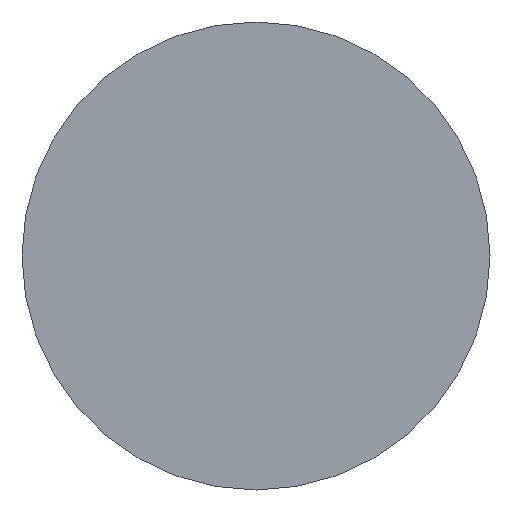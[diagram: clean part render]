
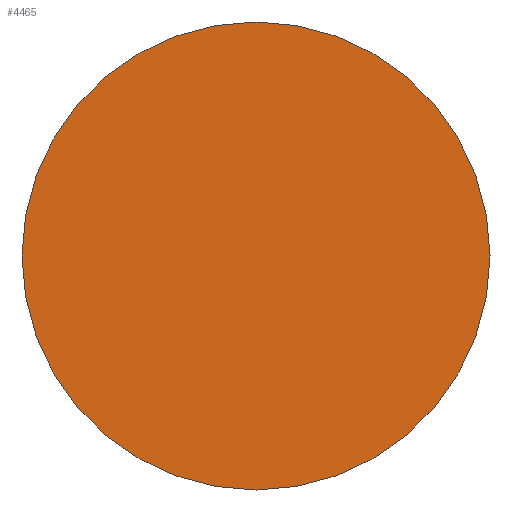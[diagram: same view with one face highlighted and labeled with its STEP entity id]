
A CAD part, front view. The second image highlights one B-rep face of the part: STEP entity #4465.
In plain terms, the highlighted planar face has unit normal (0, -1, 0).
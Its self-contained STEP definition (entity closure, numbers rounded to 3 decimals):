
#518 = DIRECTION ( 'NONE',  ( -1., 0., 0. ) ) ;
#1342 = FACE_OUTER_BOUND ( 'NONE', #4981, .T. ) ;
#3383 = CIRCLE ( 'NONE', #12966, 20. ) ;
#3395 = DIRECTION ( 'NONE',  ( -1., 0., 0. ) ) ;
#4465 = ADVANCED_FACE ( 'NONE', ( #1342 ), #7825, .F. ) ;
#4981 = EDGE_LOOP ( 'NONE', ( #6237 ) ) ;
#6237 = ORIENTED_EDGE ( 'NONE', *, *, #6949, .F. ) ;
#6780 = CARTESIAN_POINT ( 'NONE',  ( 0., -80., 0. ) ) ;
#6949 = EDGE_CURVE ( 'NONE', #9112, #9112, #3383, .T. ) ;
#7825 = PLANE ( 'NONE',  #9867 ) ;
#7895 = DIRECTION ( 'NONE',  ( 0., 1., 0. ) ) ;
#7908 = CARTESIAN_POINT ( 'NONE',  ( -20., -80., 0. ) ) ;
#9112 = VERTEX_POINT ( 'NONE', #7908 ) ;
#9680 = DIRECTION ( 'NONE',  ( 0., 1., 0. ) ) ;
#9867 = AXIS2_PLACEMENT_3D ( 'NONE', #6780, #7895, #518 ) ;
#11708 = CARTESIAN_POINT ( 'NONE',  ( 0., -80., 0. ) ) ;
#12966 = AXIS2_PLACEMENT_3D ( 'NONE', #11708, #9680, #3395 ) ;
